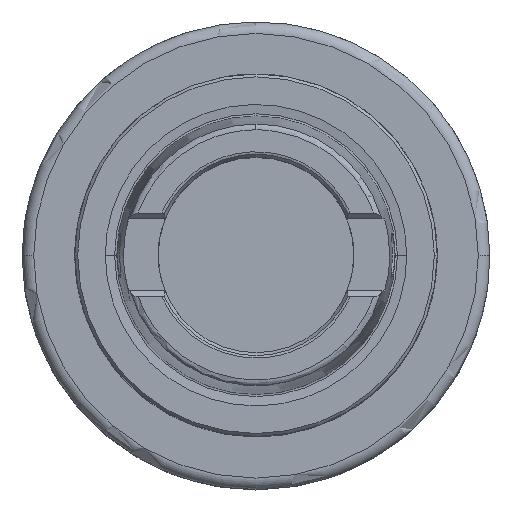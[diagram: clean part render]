
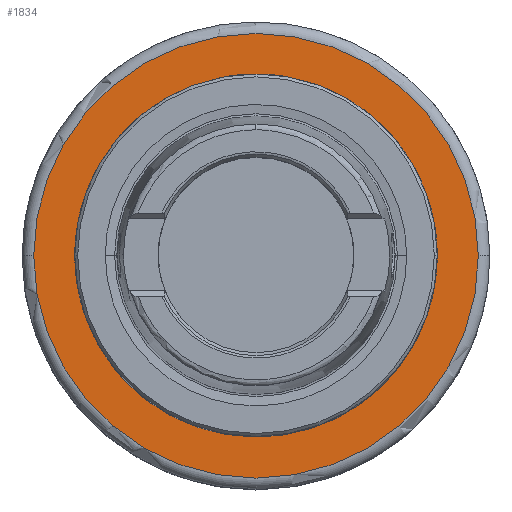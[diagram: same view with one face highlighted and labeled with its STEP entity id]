
A CAD part, top view. The second image highlights one B-rep face of the part: STEP entity #1834.
In plain terms, the highlighted planar face has unit normal (0, 0, 1).
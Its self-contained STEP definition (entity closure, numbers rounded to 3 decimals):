
#1729=AXIS2_PLACEMENT_3D('Circle Axis2P3D',#1727,#1728,$) ;
#1754=AXIS2_PLACEMENT_3D('Circle Axis2P3D',#1752,#1753,$) ;
#1768=AXIS2_PLACEMENT_3D('Plane Axis2P3D',#1765,#1766,#1767) ;
#1724=CARTESIAN_POINT('Vertex',(38.65,0.,-58.6)) ;
#1727=CARTESIAN_POINT('Axis2P3D Location',(0.,0.,-58.6)) ;
#1731=CARTESIAN_POINT('Vertex',(-38.65,0.,-58.6)) ;
#1752=CARTESIAN_POINT('Axis2P3D Location',(0.,0.,-58.6)) ;
#1765=CARTESIAN_POINT('Axis2P3D Location',(0.,31.5,-58.6)) ;
#1775=CARTESIAN_POINT('Control Point',(-31.5,0.,-58.6)) ;
#1776=CARTESIAN_POINT('Control Point',(-31.5,3.024,-58.6)) ;
#1777=CARTESIAN_POINT('Control Point',(-31.137,6.049,-58.6)) ;
#1778=CARTESIAN_POINT('Control Point',(-30.411,9.016,-58.6)) ;
#1779=CARTESIAN_POINT('Control Point',(-28.261,14.716,-58.6)) ;
#1780=CARTESIAN_POINT('Control Point',(-24.824,19.746,-58.6)) ;
#1781=CARTESIAN_POINT('Control Point',(-22.809,22.042,-58.6)) ;
#1782=CARTESIAN_POINT('Control Point',(-18.27,26.105,-58.6)) ;
#1783=CARTESIAN_POINT('Control Point',(-12.898,28.978,-58.6)) ;
#1784=CARTESIAN_POINT('Control Point',(-10.051,30.084,-58.6)) ;
#1785=CARTESIAN_POINT('Control Point',(-4.148,31.592,-58.6)) ;
#1786=CARTESIAN_POINT('Control Point',(1.943,31.66,-58.6)) ;
#1787=CARTESIAN_POINT('Control Point',(4.98,31.326,-58.6)) ;
#1788=CARTESIAN_POINT('Control Point',(10.911,29.937,-58.6)) ;
#1789=CARTESIAN_POINT('Control Point',(16.346,27.183,-58.6)) ;
#1790=CARTESIAN_POINT('Control Point',(18.884,25.485,-58.6)) ;
#1791=CARTESIAN_POINT('Control Point',(23.504,21.513,-58.6)) ;
#1792=CARTESIAN_POINT('Control Point',(27.052,16.561,-58.6)) ;
#1793=CARTESIAN_POINT('Control Point',(28.52,13.882,-58.6)) ;
#1794=CARTESIAN_POINT('Control Point',(30.267,9.516,-58.6)) ;
#1795=CARTESIAN_POINT('Control Point',(31.178,4.926,-58.6)) ;
#1796=CARTESIAN_POINT('Control Point',(31.393,3.29,-58.6)) ;
#1797=CARTESIAN_POINT('Control Point',(31.5,1.645,-58.6)) ;
#1798=CARTESIAN_POINT('Control Point',(31.5,0.,-58.6)) ;
#1799=CARTESIAN_POINT('Vertex',(-31.5,0.,-58.6)) ;
#1801=CARTESIAN_POINT('Vertex',(31.5,0.,-58.6)) ;
#1805=CARTESIAN_POINT('Control Point',(31.5,0.,-58.6)) ;
#1806=CARTESIAN_POINT('Control Point',(31.5,-3.024,-58.6)) ;
#1807=CARTESIAN_POINT('Control Point',(31.137,-6.049,-58.6)) ;
#1808=CARTESIAN_POINT('Control Point',(30.411,-9.016,-58.6)) ;
#1809=CARTESIAN_POINT('Control Point',(28.261,-14.716,-58.6)) ;
#1810=CARTESIAN_POINT('Control Point',(24.824,-19.746,-58.6)) ;
#1811=CARTESIAN_POINT('Control Point',(22.809,-22.042,-58.6)) ;
#1812=CARTESIAN_POINT('Control Point',(18.27,-26.105,-58.6)) ;
#1813=CARTESIAN_POINT('Control Point',(12.898,-28.978,-58.6)) ;
#1814=CARTESIAN_POINT('Control Point',(10.051,-30.084,-58.6)) ;
#1815=CARTESIAN_POINT('Control Point',(4.148,-31.592,-58.6)) ;
#1816=CARTESIAN_POINT('Control Point',(-1.943,-31.66,-58.6)) ;
#1817=CARTESIAN_POINT('Control Point',(-4.98,-31.326,-58.6)) ;
#1818=CARTESIAN_POINT('Control Point',(-10.911,-29.937,-58.6)) ;
#1819=CARTESIAN_POINT('Control Point',(-16.346,-27.183,-58.6)) ;
#1820=CARTESIAN_POINT('Control Point',(-18.884,-25.485,-58.6)) ;
#1821=CARTESIAN_POINT('Control Point',(-23.504,-21.513,-58.6)) ;
#1822=CARTESIAN_POINT('Control Point',(-27.052,-16.561,-58.6)) ;
#1823=CARTESIAN_POINT('Control Point',(-28.52,-13.882,-58.6)) ;
#1824=CARTESIAN_POINT('Control Point',(-30.267,-9.516,-58.6)) ;
#1825=CARTESIAN_POINT('Control Point',(-31.178,-4.926,-58.6)) ;
#1826=CARTESIAN_POINT('Control Point',(-31.393,-3.29,-58.6)) ;
#1827=CARTESIAN_POINT('Control Point',(-31.5,-1.645,-58.6)) ;
#1828=CARTESIAN_POINT('Control Point',(-31.5,0.,-58.6)) ;
#1728=DIRECTION('Axis2P3D Direction',(0.,0.,1.)) ;
#1753=DIRECTION('Axis2P3D Direction',(0.,0.,1.)) ;
#1766=DIRECTION('Axis2P3D Direction',(0.,0.,1.)) ;
#1767=DIRECTION('Axis2P3D XDirection',(-1.,0.,0.)) ;
#1771=ORIENTED_EDGE('',*,*,#1733,.T.) ;
#1772=ORIENTED_EDGE('',*,*,#1756,.T.) ;
#1831=ORIENTED_EDGE('',*,*,#1803,.T.) ;
#1832=ORIENTED_EDGE('',*,*,#1829,.T.) ;
#1833=FACE_BOUND('',#1830,.T.) ;
#1834=ADVANCED_FACE('NOCUT',(#1773,#1833),#1769,.T.) ;
#1774=B_SPLINE_CURVE_WITH_KNOTS('',5,(#1775,#1776,#1777,#1778,#1779,#1780,#1781,#1782,#1783,#1784,#1785,#1786,#1787,#1788,#1789,#1790,#1791,#1792,#1793,#1794,#1795,#1796,#1797,#1798),.UNSPECIFIED.,.F.,.U.,(6,3,3,3,3,3,3,6),(0.,21.434,42.869,64.303,85.737,107.172,128.606,140.265),.UNSPECIFIED.) ;
#1804=B_SPLINE_CURVE_WITH_KNOTS('',5,(#1805,#1806,#1807,#1808,#1809,#1810,#1811,#1812,#1813,#1814,#1815,#1816,#1817,#1818,#1819,#1820,#1821,#1822,#1823,#1824,#1825,#1826,#1827,#1828),.UNSPECIFIED.,.F.,.U.,(6,3,3,3,3,3,3,6),(0.,21.434,42.869,64.303,85.737,107.172,128.606,140.265),.UNSPECIFIED.) ;
#1730=CIRCLE('generated circle',#1729,38.65) ;
#1755=CIRCLE('generated circle',#1754,38.65) ;
#1733=EDGE_CURVE('',#1732,#1725,#1730,.T.) ;
#1756=EDGE_CURVE('',#1725,#1732,#1755,.T.) ;
#1803=EDGE_CURVE('',#1800,#1802,#1774,.T.) ;
#1829=EDGE_CURVE('',#1802,#1800,#1804,.T.) ;
#1770=EDGE_LOOP('',(#1771,#1772)) ;
#1830=EDGE_LOOP('',(#1831,#1832)) ;
#1773=FACE_OUTER_BOUND('',#1770,.T.) ;
#1769=PLANE('',#1768) ;
#1725=VERTEX_POINT('',#1724) ;
#1732=VERTEX_POINT('',#1731) ;
#1800=VERTEX_POINT('',#1799) ;
#1802=VERTEX_POINT('',#1801) ;
